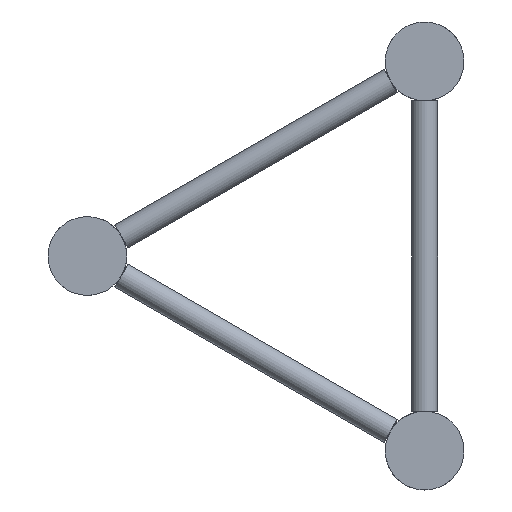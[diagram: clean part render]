
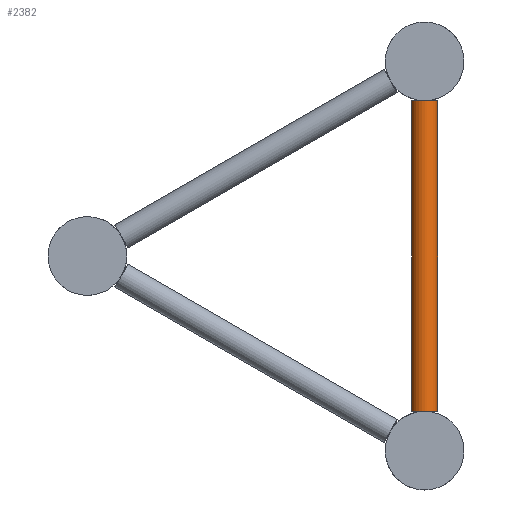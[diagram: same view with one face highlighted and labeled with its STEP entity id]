
A CAD part, left-side view. The second image highlights one B-rep face of the part: STEP entity #2382.
In plain terms, the highlighted cylindrical face has radius 8 mm (diameter 16 mm), a full revolution.
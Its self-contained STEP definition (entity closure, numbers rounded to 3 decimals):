
#74=CIRCLE('',#2704,8.);
#104=CIRCLE('',#2771,8.);
#105=CIRCLE('',#2773,8.);
#106=CIRCLE('',#2775,8.);
#242=FACE_BOUND('',#807,.T.);
#329=CYLINDRICAL_SURFACE('',#2774,8.);
#509=FACE_OUTER_BOUND('',#806,.T.);
#806=EDGE_LOOP('',(#1675,#1676));
#807=EDGE_LOOP('',(#1677,#1678));
#1107=VERTEX_POINT('',#3940);
#1108=VERTEX_POINT('',#3941);
#1113=VERTEX_POINT('',#3962);
#1114=VERTEX_POINT('',#3963);
#1288=EDGE_CURVE('',#1108,#1107,#74,.T.);
#1334=EDGE_CURVE('',#1114,#1113,#104,.T.);
#1335=EDGE_CURVE('',#1107,#1108,#105,.T.);
#1336=EDGE_CURVE('',#1113,#1114,#106,.T.);
#1675=ORIENTED_EDGE('',*,*,#1288,.T.);
#1676=ORIENTED_EDGE('',*,*,#1335,.T.);
#1677=ORIENTED_EDGE('',*,*,#1334,.T.);
#1678=ORIENTED_EDGE('',*,*,#1336,.T.);
#2382=ADVANCED_FACE('',(#509,#242),#329,.T.);
#2704=AXIS2_PLACEMENT_3D('',#3950,#3285,#3286);
#2771=AXIS2_PLACEMENT_3D('',#4209,#3427,#3428);
#2773=AXIS2_PLACEMENT_3D('',#4211,#3431,#3432);
#2774=AXIS2_PLACEMENT_3D('',#4212,#3433,#3434);
#2775=AXIS2_PLACEMENT_3D('',#4213,#3435,#3436);
#3285=DIRECTION('center_axis',(0.,0.,
1.));
#3286=DIRECTION('ref_axis',(-1.,0.,0.));
#3427=DIRECTION('center_axis',(0.,0.,
-1.));
#3428=DIRECTION('ref_axis',(-1.,0.,0.));
#3431=DIRECTION('center_axis',(0.,0.,
1.));
#3432=DIRECTION('ref_axis',(-1.,0.,0.));
#3433=DIRECTION('center_axis',(0.,0.,
1.));
#3434=DIRECTION('ref_axis',(-1.,0.,0.));
#3435=DIRECTION('center_axis',(0.,0.,
-1.));
#3436=DIRECTION('ref_axis',(-1.,0.,0.));
#3940=CARTESIAN_POINT('',(52.,0.,-214.85));
#3941=CARTESIAN_POINT('',(68.,0.,-214.85));
#3950=CARTESIAN_POINT('Origin',(60.,0.,-214.85));
#3962=CARTESIAN_POINT('',(52.,0.,-24.15));
#3963=CARTESIAN_POINT('',(68.,0.,-24.15));
#4209=CARTESIAN_POINT('Origin',(60.,0.,-24.15));
#4211=CARTESIAN_POINT('Origin',(60.,0.,-214.85));
#4212=CARTESIAN_POINT('Origin',(60.,0.,-119.5));
#4213=CARTESIAN_POINT('Origin',(60.,0.,-24.15));
